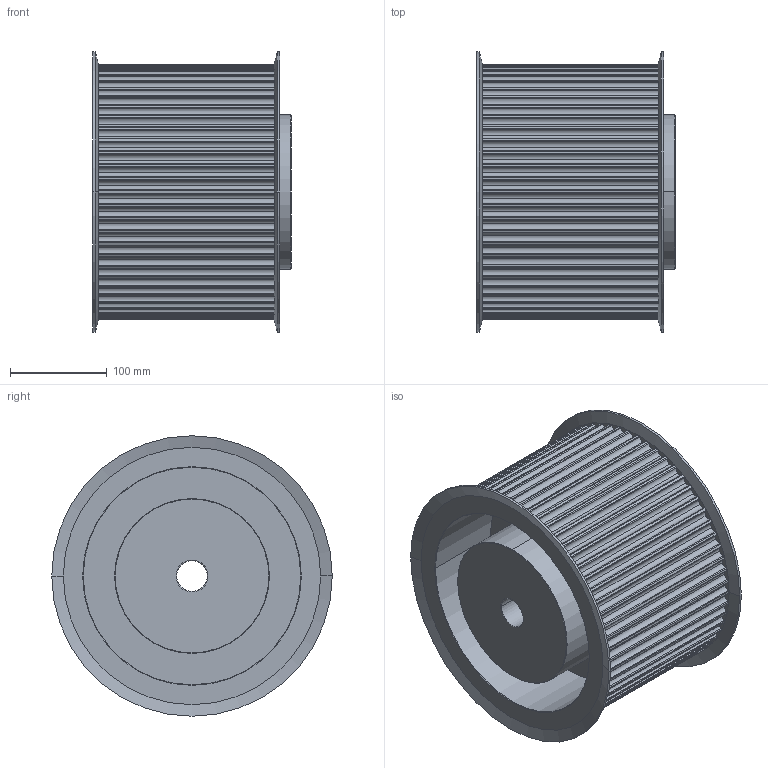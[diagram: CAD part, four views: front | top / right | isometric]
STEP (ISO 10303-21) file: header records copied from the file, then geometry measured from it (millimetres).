
FILE_DESCRIPTION(('STEP AP203'),'1');
FILE_NAME('60_-_14_m_170.stp','2022-04-28T11:40:35',('TraceParts'),('TraceParts S.A.'),'Spatial InterOp 3D',' ',' ');
FILE_SCHEMA(('CONFIG_CONTROL_DESIGN'));
Length unit declared in the file: millimetre
Products named in the file (1): 1
Bounding box: 205.22 x 290 x 290 mm (x, y, z)
Volume: 6904165.6 mm3; surface area: 585645.9 mm2
Topology: 1 solids, 1 shells, 342 faces, 988 edges, 654 vertices
Faces by surface type: cylinder 314, cone 20, plane 8
Entity records: 11682 total; most frequent: DIRECTION 2328, CARTESIAN_POINT 1985, ORIENTED_EDGE 1976, AXIS2_PLACEMENT_3D 997, EDGE_CURVE 988, VERTEX_POINT 654, CIRCLE 654, EDGE_LOOP 350
